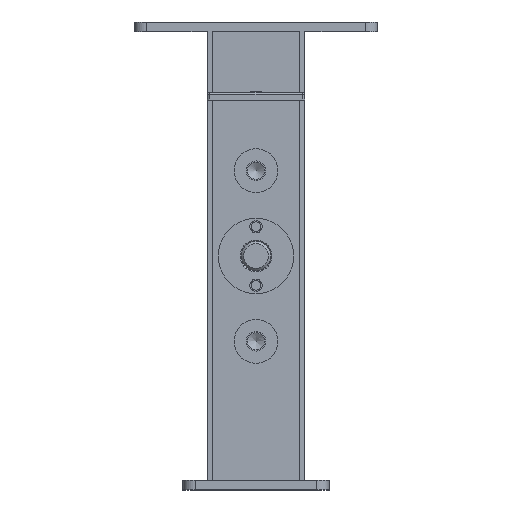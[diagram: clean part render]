
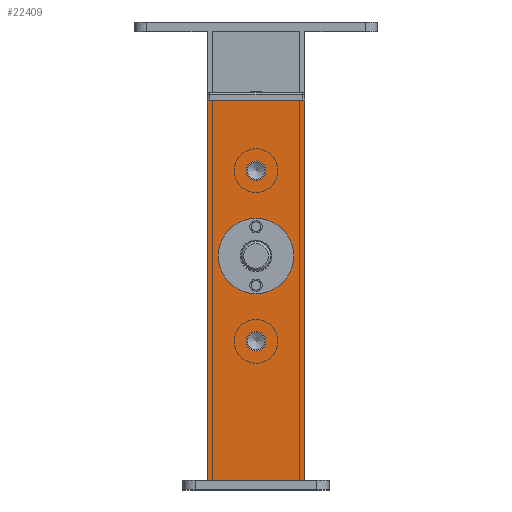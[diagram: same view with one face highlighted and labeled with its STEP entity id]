
A CAD part, front view. The second image highlights one B-rep face of the part: STEP entity #22409.
In plain terms, the highlighted planar face has unit normal (0, -1, 0).
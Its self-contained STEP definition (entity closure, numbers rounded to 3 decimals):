
#20707=CARTESIAN_POINT('',(388.024,-349.372,160.0));
#20708=VERTEX_POINT('',#20707);
#20732=CARTESIAN_POINT('',(350.024,-349.372,160.0));
#20733=VERTEX_POINT('',#20732);
#20740=CARTESIAN_POINT('',(388.024,-349.372,160.));
#20741=DIRECTION('',(-1.0,0.0,0.0));
#20742=VECTOR('',#20741,38.);
#20743=LINE('',#20740,#20742);
#20744=EDGE_CURVE('',#20708,#20733,#20743,.T.);
#20774=CARTESIAN_POINT('',(349.024,-349.372,160.));
#20775=VERTEX_POINT('',#20774);
#20782=CARTESIAN_POINT('',(350.024,-349.372,160.));
#20783=DIRECTION('',(-1.0,0.0,0.0));
#20784=VECTOR('',#20783,1.);
#20785=LINE('',#20782,#20784);
#20786=EDGE_CURVE('',#20733,#20775,#20785,.T.);
#20843=CARTESIAN_POINT('',(389.024,-349.372,160.));
#20844=VERTEX_POINT('',#20843);
#20845=CARTESIAN_POINT('',(389.024,-349.372,160.));
#20846=DIRECTION('',(-1.0,0.0,0.0));
#20847=VECTOR('',#20846,1.);
#20848=LINE('',#20845,#20847);
#20849=EDGE_CURVE('',#20844,#20708,#20848,.T.);
#21920=CARTESIAN_POINT('',(369.024,-349.372,111.5));
#21921=VERTEX_POINT('',#21920);
#21922=CARTESIAN_POINT('',(369.024,-349.372,96.));
#21923=DIRECTION('',(0.0,1.0,0.0));
#21924=DIRECTION('',(0.0,0.0,1.0));
#21925=AXIS2_PLACEMENT_3D('',#21922,#21923,#21924);
#21926=CIRCLE('',#21925,15.5);
#21927=EDGE_CURVE('',#21921,#21921,#21926,.T.);
#22352=CARTESIAN_POINT('',(389.024,-349.372,4.));
#22353=DIRECTION('',(0.0,-1.0,0.0));
#22354=DIRECTION('',(0.0,0.0,1.0));
#22355=AXIS2_PLACEMENT_3D('',#22352,#22353,#22354);
#22356=PLANE('',#22355);
#22357=ORIENTED_EDGE('',*,*,#20849,.T.);
#22358=ORIENTED_EDGE('',*,*,#20744,.T.);
#22359=ORIENTED_EDGE('',*,*,#20786,.T.);
#22360=CARTESIAN_POINT('',(349.024,-349.372,4.));
#22361=VERTEX_POINT('',#22360);
#22362=CARTESIAN_POINT('',(349.024,-349.372,4.));
#22363=DIRECTION('',(0.0,0.0,1.0));
#22364=VECTOR('',#22363,156.0);
#22365=LINE('',#22362,#22364);
#22366=EDGE_CURVE('',#22361,#20775,#22365,.T.);
#22367=ORIENTED_EDGE('',*,*,#22366,.F.);
#22368=CARTESIAN_POINT('',(389.024,-349.372,4.));
#22369=VERTEX_POINT('',#22368);
#22370=CARTESIAN_POINT('',(389.024,-349.372,4.));
#22371=DIRECTION('',(-1.0,0.0,0.0));
#22372=VECTOR('',#22371,40.0);
#22373=LINE('',#22370,#22372);
#22374=EDGE_CURVE('',#22369,#22361,#22373,.T.);
#22375=ORIENTED_EDGE('',*,*,#22374,.F.);
#22376=CARTESIAN_POINT('',(389.024,-349.372,4.));
#22377=DIRECTION('',(0.0,0.0,1.0));
#22378=VECTOR('',#22377,156.0);
#22379=LINE('',#22376,#22378);
#22380=EDGE_CURVE('',#22369,#20844,#22379,.T.);
#22381=ORIENTED_EDGE('',*,*,#22380,.T.);
#22382=EDGE_LOOP('',(#22357,#22358,#22359,#22367,#22375,#22381));
#22383=FACE_OUTER_BOUND('',#22382,.T.);
#22384=ORIENTED_EDGE('',*,*,#21927,.T.);
#22385=EDGE_LOOP('',(#22384));
#22386=FACE_BOUND('',#22385,.T.);
#22387=CARTESIAN_POINT('',(365.024,-349.372,131.));
#22388=VERTEX_POINT('',#22387);
#22389=CARTESIAN_POINT('',(369.024,-349.372,131.));
#22390=DIRECTION('',(0.0,1.0,0.0));
#22391=DIRECTION('',(-1.0,0.0,0.0));
#22392=AXIS2_PLACEMENT_3D('',#22389,#22390,#22391);
#22393=CIRCLE('',#22392,4.0);
#22394=EDGE_CURVE('',#22388,#22388,#22393,.T.);
#22395=ORIENTED_EDGE('',*,*,#22394,.T.);
#22396=EDGE_LOOP('',(#22395));
#22397=FACE_BOUND('',#22396,.T.);
#22398=CARTESIAN_POINT('',(365.024,-349.372,61.));
#22399=VERTEX_POINT('',#22398);
#22400=CARTESIAN_POINT('',(369.024,-349.372,61.));
#22401=DIRECTION('',(0.0,1.0,0.0));
#22402=DIRECTION('',(-1.0,0.0,0.0));
#22403=AXIS2_PLACEMENT_3D('',#22400,#22401,#22402);
#22404=CIRCLE('',#22403,4.0);
#22405=EDGE_CURVE('',#22399,#22399,#22404,.T.);
#22406=ORIENTED_EDGE('',*,*,#22405,.T.);
#22407=EDGE_LOOP('',(#22406));
#22408=FACE_BOUND('',#22407,.T.);
#22409=ADVANCED_FACE('',(#22383,#22386,#22397,#22408),#22356,.T.);
